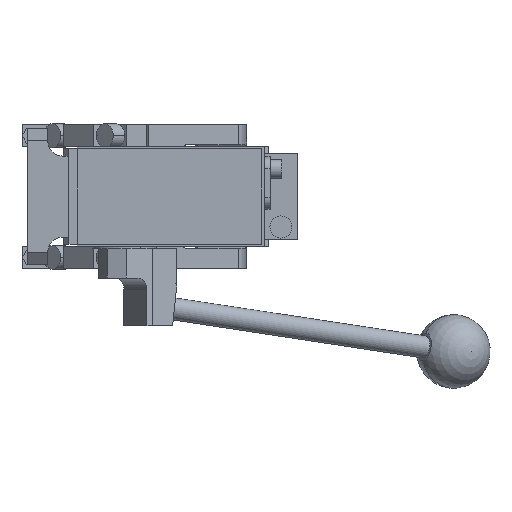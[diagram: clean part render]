
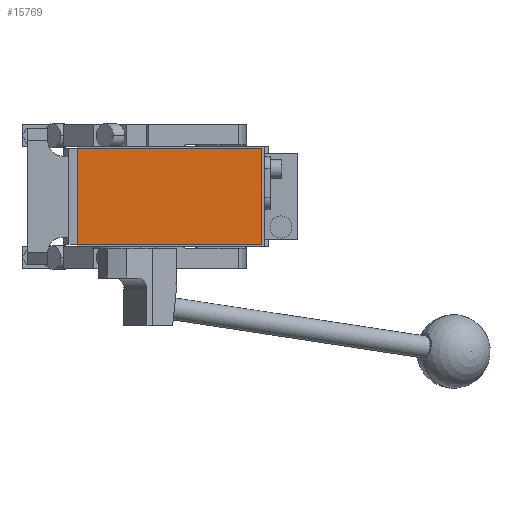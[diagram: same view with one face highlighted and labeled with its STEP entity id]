
A CAD part, front view. The second image highlights one B-rep face of the part: STEP entity #15769.
In plain terms, the highlighted planar face has unit normal (0, -1, 0).
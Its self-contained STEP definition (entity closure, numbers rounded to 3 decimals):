
#80 = DIRECTION ( 'NONE',  ( 0., 0., 1. ) ) ;
#145 = DIRECTION ( 'NONE',  ( 0., 0., -1. ) ) ;
#833 = CARTESIAN_POINT ( 'NONE',  ( -19., -286.5, 26. ) ) ;
#990 = CARTESIAN_POINT ( 'NONE',  ( -19., -286.5, 26. ) ) ;
#1367 = LINE ( 'NONE', #833, #8389 ) ;
#1731 = VERTEX_POINT ( 'NONE', #13858 ) ;
#2056 = EDGE_CURVE ( 'NONE', #6489, #1731, #9901, .T. ) ;
#2213 = FACE_OUTER_BOUND ( 'NONE', #12318, .T. ) ;
#2734 = CARTESIAN_POINT ( 'NONE',  ( 81., -286.5, 26. ) ) ;
#3836 = DIRECTION ( 'NONE',  ( 0., 0., -1. ) ) ;
#4169 = CARTESIAN_POINT ( 'NONE',  ( -19., -286.5, -26. ) ) ;
#4628 = ORIENTED_EDGE ( 'NONE', *, *, #10949, .T. ) ;
#4917 = ORIENTED_EDGE ( 'NONE', *, *, #13663, .T. ) ;
#5395 = VERTEX_POINT ( 'NONE', #990 ) ;
#6110 = CARTESIAN_POINT ( 'NONE',  ( -19., -286.5, -26. ) ) ;
#6122 = LINE ( 'NONE', #16163, #16312 ) ;
#6329 = DIRECTION ( 'NONE',  ( 0., -1., 0. ) ) ;
#6428 = CARTESIAN_POINT ( 'NONE',  ( 81., -286.5, 26. ) ) ;
#6489 = VERTEX_POINT ( 'NONE', #4169 ) ;
#6691 = VERTEX_POINT ( 'NONE', #2734 ) ;
#7279 = ORIENTED_EDGE ( 'NONE', *, *, #2056, .T. ) ;
#7557 = PLANE ( 'NONE',  #8491 ) ;
#7807 = CARTESIAN_POINT ( 'NONE',  ( 0., -286.5, 0. ) ) ;
#8389 = VECTOR ( 'NONE', #145, 1000. ) ;
#8491 = AXIS2_PLACEMENT_3D ( 'NONE', #7807, #6329, #3836 ) ;
#9901 = LINE ( 'NONE', #6110, #11976 ) ;
#10042 = VECTOR ( 'NONE', #80, 1000. ) ;
#10949 = EDGE_CURVE ( 'NONE', #1731, #6691, #11370, .T. ) ;
#11370 = LINE ( 'NONE', #6428, #10042 ) ;
#11375 = DIRECTION ( 'NONE',  ( 1., 0., 0. ) ) ;
#11976 = VECTOR ( 'NONE', #11375, 1000. ) ;
#12318 = EDGE_LOOP ( 'NONE', ( #4917, #7279, #4628, #12346 ) ) ;
#12346 = ORIENTED_EDGE ( 'NONE', *, *, #13997, .T. ) ;
#13663 = EDGE_CURVE ( 'NONE', #5395, #6489, #1367, .T. ) ;
#13858 = CARTESIAN_POINT ( 'NONE',  ( 81., -286.5, -26. ) ) ;
#13997 = EDGE_CURVE ( 'NONE', #6691, #5395, #6122, .T. ) ;
#15769 = ADVANCED_FACE ( 'NONE', ( #2213 ), #7557, .T. ) ;
#15928 = DIRECTION ( 'NONE',  ( -1., 0., 0. ) ) ;
#16163 = CARTESIAN_POINT ( 'NONE',  ( -19., -286.5, 26. ) ) ;
#16312 = VECTOR ( 'NONE', #15928, 1000. ) ;
